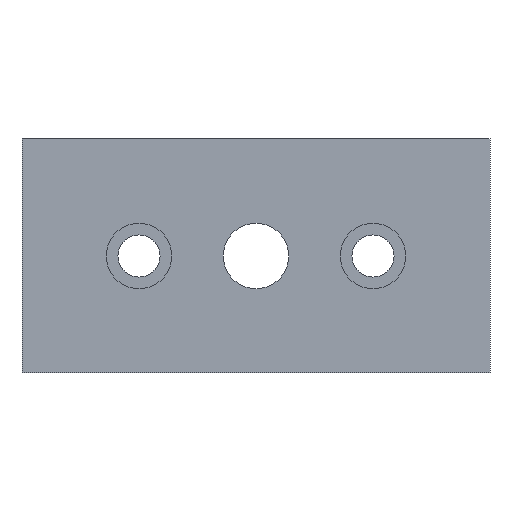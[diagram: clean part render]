
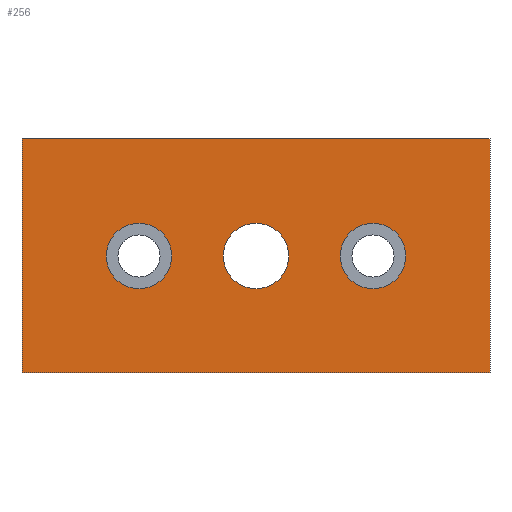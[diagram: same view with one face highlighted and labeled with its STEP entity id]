
A CAD part, front view. The second image highlights one B-rep face of the part: STEP entity #256.
In plain terms, the highlighted planar face has unit normal (0, -1, 0).
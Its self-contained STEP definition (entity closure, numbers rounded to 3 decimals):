
#8 = CIRCLE ( 'NONE', #140, 7. ) ;
#15 = CIRCLE ( 'NONE', #167, 7. ) ;
#23 = DIRECTION ( 'NONE',  ( 0., 0., -1. ) ) ;
#28 = VERTEX_POINT ( 'NONE', #411 ) ;
#39 = AXIS2_PLACEMENT_3D ( 'NONE', #526, #522, #521 ) ;
#54 = ORIENTED_EDGE ( 'NONE', *, *, #258, .F. ) ;
#59 = ORIENTED_EDGE ( 'NONE', *, *, #214, .T. ) ;
#60 = AXIS2_PLACEMENT_3D ( 'NONE', #273, #271, #272 ) ;
#61 = DIRECTION ( 'NONE',  ( 0., -1., 0. ) ) ;
#62 = ORIENTED_EDGE ( 'NONE', *, *, #306, .T. ) ;
#63 = CARTESIAN_POINT ( 'NONE',  ( -25., 0., 0. ) ) ;
#73 = ORIENTED_EDGE ( 'NONE', *, *, #227, .F. ) ;
#76 = ORIENTED_EDGE ( 'NONE', *, *, #394, .F. ) ;
#78 = FACE_BOUND ( 'NONE', #363, .T. ) ;
#83 = ORIENTED_EDGE ( 'NONE', *, *, #180, .F. ) ;
#84 = ORIENTED_EDGE ( 'NONE', *, *, #531, .F. ) ;
#95 = DIRECTION ( 'NONE',  ( 1., 0., 0. ) ) ;
#109 = CARTESIAN_POINT ( 'NONE',  ( 25., 0., -7. ) ) ;
#117 = AXIS2_PLACEMENT_3D ( 'NONE', #253, #237, #234 ) ;
#118 = CARTESIAN_POINT ( 'NONE',  ( -50., 0., 25. ) ) ;
#121 = DIRECTION ( 'NONE',  ( 0., 0., -1. ) ) ;
#123 = DIRECTION ( 'NONE',  ( 0., 1., 0. ) ) ;
#124 = AXIS2_PLACEMENT_3D ( 'NONE', #393, #389, #387 ) ;
#127 = CARTESIAN_POINT ( 'NONE',  ( 50., 0., -25. ) ) ;
#140 = AXIS2_PLACEMENT_3D ( 'NONE', #63, #61, #23 ) ;
#141 = EDGE_LOOP ( 'NONE', ( #182, #54, #401, #192 ) ) ;
#145 = AXIS2_PLACEMENT_3D ( 'NONE', #183, #123, #170 ) ;
#147 = VERTEX_POINT ( 'NONE', #380 ) ;
#163 = CIRCLE ( 'NONE', #145, 7. ) ;
#166 = VERTEX_POINT ( 'NONE', #437 ) ;
#167 = AXIS2_PLACEMENT_3D ( 'NONE', #301, #279, #278 ) ;
#170 = DIRECTION ( 'NONE',  ( 0., 0., 1. ) ) ;
#172 = VERTEX_POINT ( 'NONE', #338 ) ;
#180 = EDGE_CURVE ( 'NONE', #232, #28, #15, .T. ) ;
#182 = ORIENTED_EDGE ( 'NONE', *, *, #343, .F. ) ;
#183 = CARTESIAN_POINT ( 'NONE',  ( 0., 0., 0. ) ) ;
#192 = ORIENTED_EDGE ( 'NONE', *, *, #322, .F. ) ;
#197 = VERTEX_POINT ( 'NONE', #295 ) ;
#206 = VERTEX_POINT ( 'NONE', #219 ) ;
#214 = EDGE_CURVE ( 'NONE', #197, #147, #163, .T. ) ;
#216 = VERTEX_POINT ( 'NONE', #229 ) ;
#219 = CARTESIAN_POINT ( 'NONE',  ( -25., 0., -7. ) ) ;
#227 = EDGE_CURVE ( 'NONE', #172, #206, #8, .T. ) ;
#229 = CARTESIAN_POINT ( 'NONE',  ( -50., 0., 25. ) ) ;
#232 = VERTEX_POINT ( 'NONE', #109 ) ;
#234 = DIRECTION ( 'NONE',  ( 0., 0., 1. ) ) ;
#237 = DIRECTION ( 'NONE',  ( 0., 1., 0. ) ) ;
#252 = VERTEX_POINT ( 'NONE', #396 ) ;
#253 = CARTESIAN_POINT ( 'NONE',  ( 0., 0., 0. ) ) ;
#256 = ADVANCED_FACE ( 'NONE', ( #305, #78, #485, #618 ), #417, .T. ) ;
#258 = EDGE_CURVE ( 'NONE', #252, #216, #581, .T. ) ;
#271 = DIRECTION ( 'NONE',  ( 0., -1., 0. ) ) ;
#272 = DIRECTION ( 'NONE',  ( 0., 0., -1. ) ) ;
#273 = CARTESIAN_POINT ( 'NONE',  ( -25., 0., 0. ) ) ;
#278 = DIRECTION ( 'NONE',  ( 0., 0., -1. ) ) ;
#279 = DIRECTION ( 'NONE',  ( 0., -1., 0. ) ) ;
#295 = CARTESIAN_POINT ( 'NONE',  ( 0., 0., -7. ) ) ;
#299 = EDGE_CURVE ( 'NONE', #166, #252, #534, .T. ) ;
#301 = CARTESIAN_POINT ( 'NONE',  ( 25., 0., 0. ) ) ;
#305 = FACE_BOUND ( 'NONE', #447, .T. ) ;
#306 = EDGE_CURVE ( 'NONE', #147, #197, #544, .T. ) ;
#312 = CARTESIAN_POINT ( 'NONE',  ( -50., 0., -25. ) ) ;
#319 = DIRECTION ( 'NONE',  ( -1., 0., 0. ) ) ;
#322 = EDGE_CURVE ( 'NONE', #541, #166, #505, .T. ) ;
#338 = CARTESIAN_POINT ( 'NONE',  ( -25., 0., 7. ) ) ;
#343 = EDGE_CURVE ( 'NONE', #216, #541, #503, .T. ) ;
#363 = EDGE_LOOP ( 'NONE', ( #83, #84 ) ) ;
#366 = DIRECTION ( 'NONE',  ( 0., 0., 1. ) ) ;
#369 = CARTESIAN_POINT ( 'NONE',  ( -50., 0., -25. ) ) ;
#372 = CIRCLE ( 'NONE', #39, 7. ) ;
#380 = CARTESIAN_POINT ( 'NONE',  ( 0., 0., 7. ) ) ;
#387 = DIRECTION ( 'NONE',  ( 0., 0., -1. ) ) ;
#389 = DIRECTION ( 'NONE',  ( 0., -1., 0. ) ) ;
#393 = CARTESIAN_POINT ( 'NONE',  ( 50., 0., 25. ) ) ;
#394 = EDGE_CURVE ( 'NONE', #206, #172, #415, .T. ) ;
#396 = CARTESIAN_POINT ( 'NONE',  ( -50., 0., -25. ) ) ;
#401 = ORIENTED_EDGE ( 'NONE', *, *, #299, .F. ) ;
#411 = CARTESIAN_POINT ( 'NONE',  ( 25., 0., 7. ) ) ;
#415 = CIRCLE ( 'NONE', #60, 7. ) ;
#417 = PLANE ( 'NONE',  #124 ) ;
#437 = CARTESIAN_POINT ( 'NONE',  ( 50., 0., -25. ) ) ;
#447 = EDGE_LOOP ( 'NONE', ( #76, #73 ) ) ;
#483 = VECTOR ( 'NONE', #95, 1000. ) ;
#485 = FACE_BOUND ( 'NONE', #493, .T. ) ;
#493 = EDGE_LOOP ( 'NONE', ( #62, #59 ) ) ;
#503 = LINE ( 'NONE', #118, #483 ) ;
#505 = LINE ( 'NONE', #127, #510 ) ;
#510 = VECTOR ( 'NONE', #121, 1000. ) ;
#517 = CARTESIAN_POINT ( 'NONE',  ( 50., 0., 25. ) ) ;
#521 = DIRECTION ( 'NONE',  ( 0., 0., -1. ) ) ;
#522 = DIRECTION ( 'NONE',  ( 0., -1., 0. ) ) ;
#524 = VECTOR ( 'NONE', #319, 1000. ) ;
#526 = CARTESIAN_POINT ( 'NONE',  ( 25., 0., 0. ) ) ;
#531 = EDGE_CURVE ( 'NONE', #28, #232, #372, .T. ) ;
#534 = LINE ( 'NONE', #312, #524 ) ;
#541 = VERTEX_POINT ( 'NONE', #517 ) ;
#544 = CIRCLE ( 'NONE', #117, 7. ) ;
#581 = LINE ( 'NONE', #369, #609 ) ;
#609 = VECTOR ( 'NONE', #366, 1000. ) ;
#618 = FACE_OUTER_BOUND ( 'NONE', #141, .T. ) ;
